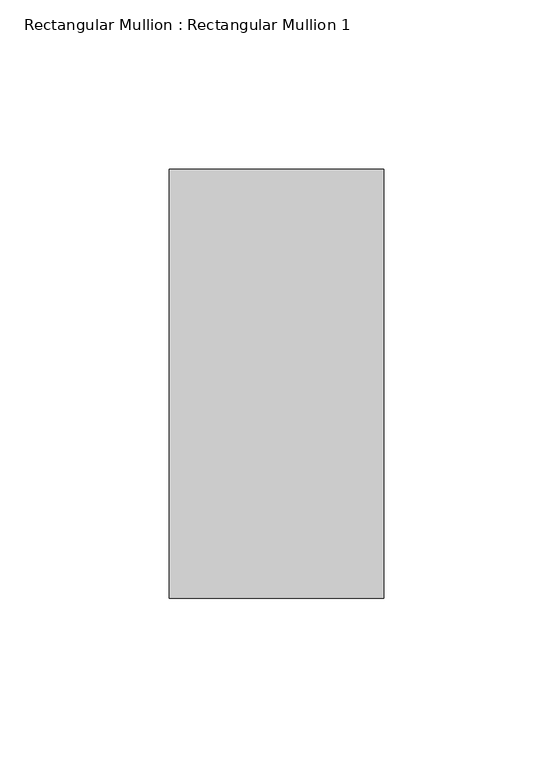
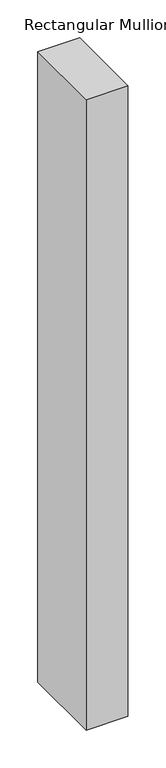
"""IFC4 building model written with IfcOpenShell, lengths in millimetres: member geometry, Rectangular Mullion : Rectangular Mullion 1."""

from ifc_helpers import new_model, si_unit, frame, origin, place, context, project, spatial, polyline, outline, extrude, source, transform, mapped, element, save


def rectangular_mullion_rectangular_mullion_1_3cf98a9d(model_context):
    return source(origin(), model_context, "Body", "SweptSolid", [
        extrude(outline(polyline([(0.0, 63.5), (0.0, -63.5), (-63.5, -63.5), (-63.5, 63.5), (0.0, 63.5)])), frame((0.0, 0.0, -1013.7321429), z_axis=(0.0, 0.0, 1.0), x_axis=(1.0, 0.0, 0.0)), (0.0, 0.0, 1.0), 1013.7321429),
    ])


if __name__ == "__main__":
    model = new_model("IFC4")
    model_context = context("Model", 3, world=origin())
    ifc_project = project(units=[si_unit("LENGTHUNIT", "METRE", prefix="MILLI")], contexts=[model_context])
    site = spatial("IfcSite", under=ifc_project)
    building = spatial("IfcBuilding", under=site)
    placement = place(None, origin())
    rectangular_mullion_rectangular_mullion_1_shape = rectangular_mullion_rectangular_mullion_1_3cf98a9d(model_context)
    element("IfcMember", 1, ObjectType="Rectangular Mullion : Rectangular Mullion 1", at=placement, inside=building, context=model_context, shape_type="MappedRepresentation", body=[
        mapped(rectangular_mullion_rectangular_mullion_1_shape, transform((0.0, 0.0, 0.0), x_axis=(1.0, 0.0, 0.0), y_axis=(0.0, 1.0, 0.0), z_axis=(0.0, 0.0, 1.0))),
    ])
    save(model, "model.ifc")
